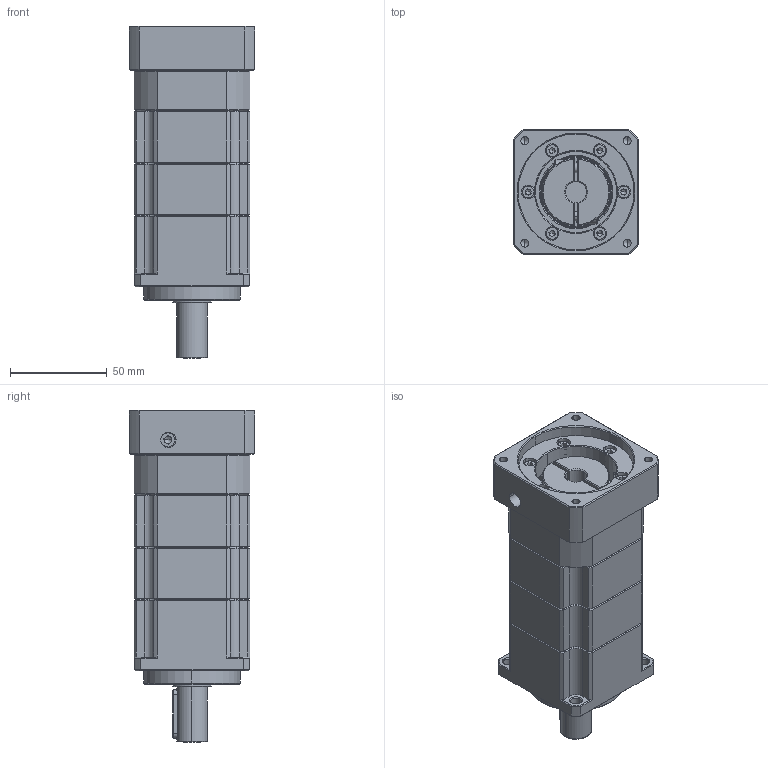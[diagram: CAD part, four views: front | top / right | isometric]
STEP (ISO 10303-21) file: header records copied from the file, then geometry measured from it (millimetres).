
FILE_DESCRIPTION (( 'STEP AP214' ), '1' );
FILE_NAME ('ZPB060-D16-L3-P1-11-60-75-M5.step', '2024-04-23T15:43:06', ( 'Windows 蚚誧' ), ( 'Organization' ), 'SwSTEP 2.0', 'SolidWorks 2016', '' );
FILE_SCHEMA (( 'AUTOMOTIVE_DESIGN' ));
Length unit declared in the file: millimetre
Products named in the file (1): ZPB060-D16-L3-P1-11-60-75-M5
Bounding box: 65 x 65 x 172 mm (x, y, z)
Volume: 423943.3 mm3; surface area: 89792.8 mm2
Topology: 17 solids, 25 shells, 2195 faces, 6041 edges, 3863 vertices
Faces by surface type: plane 1130, bspline 373, cylinder 329, cone 221, torus 96, sphere 46
Entity records: 112839 total; most frequent: CARTESIAN_POINT 36398, ORIENTED_EDGE 11744, DIRECTION 9307, EDGE_CURVE 5872, VERTEX_POINT 3794, LINE 3493, VECTOR 3493, AXIS2_PLACEMENT_3D 2907
